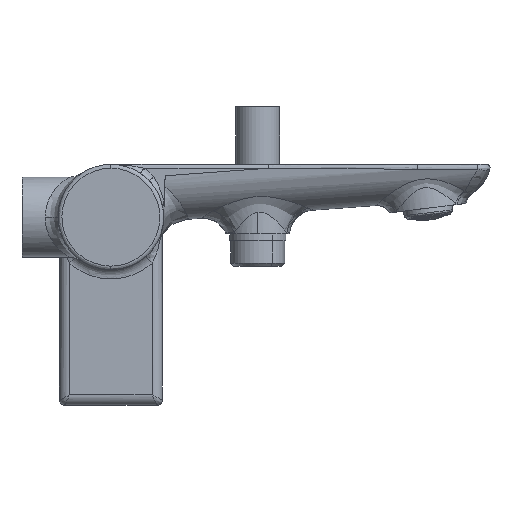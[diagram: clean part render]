
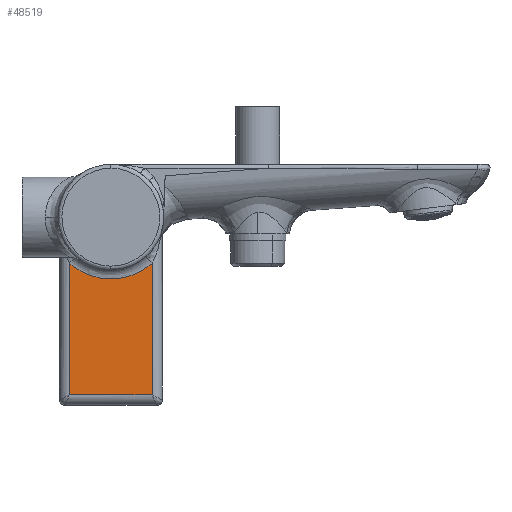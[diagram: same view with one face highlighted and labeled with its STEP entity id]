
A CAD part, left-side view. The second image highlights one B-rep face of the part: STEP entity #48519.
In plain terms, the highlighted planar face has unit normal (-1, 0, 0).
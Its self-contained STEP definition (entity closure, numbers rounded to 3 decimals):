
#1439 = CARTESIAN_POINT ( 'NONE',  ( 120.8, 12.573, -20.443 ) ) ;
#12520 = CARTESIAN_POINT ( 'NONE',  ( 120.8, -9.431, -22.071 ) ) ;
#12676 = LINE ( 'NONE', #86460, #187279 ) ;
#19677 = CARTESIAN_POINT ( 'NONE',  ( 120.8, 12.167, -20.689 ) ) ;
#20874 = CARTESIAN_POINT ( 'NONE',  ( 120.8, 8.539, -22.43 ) ) ;
#29137 = DIRECTION ( 'NONE',  ( 0., 0., -1. ) ) ;
#30747 = CARTESIAN_POINT ( 'NONE',  ( 120.8, -12.746, -20.336 ) ) ;
#33133 = CARTESIAN_POINT ( 'NONE',  ( 120.8, -14.691, -19.001 ) ) ;
#35484 = CARTESIAN_POINT ( 'NONE',  ( 120.8, -3.043, -23.855 ) ) ;
#37876 = CARTESIAN_POINT ( 'NONE',  ( 120.8, 3.885, -23.685 ) ) ;
#39058 = CARTESIAN_POINT ( 'NONE',  ( 120.8, 12.69, -20.371 ) ) ;
#43979 = EDGE_CURVE ( 'NONE', #110801, #60458, #148057, .T. ) ;
#46080 = CARTESIAN_POINT ( 'NONE',  ( 120.8, 16., -69. ) ) ;
#48519 = ADVANCED_FACE ( 'NONE', ( #218594 ), #108416, .T. ) ;
#49624 = AXIS2_PLACEMENT_3D ( 'NONE', #69743, #182260, #169711 ) ;
#50009 = CARTESIAN_POINT ( 'NONE',  ( 120.8, -5.823, -23.288 ) ) ;
#51205 = CARTESIAN_POINT ( 'NONE',  ( 120.8, -8.929, -22.277 ) ) ;
#53556 = CARTESIAN_POINT ( 'NONE',  ( 120.8, 16., -17.889 ) ) ;
#53603 = CARTESIAN_POINT ( 'NONE',  ( 120.8, 8.803, -22.328 ) ) ;
#54283 = VERTEX_POINT ( 'NONE', #149317 ) ;
#55924 = CARTESIAN_POINT ( 'NONE',  ( 120.8, 12.669, -20.383 ) ) ;
#57091 = CARTESIAN_POINT ( 'NONE',  ( 120.8, 12.631, -20.407 ) ) ;
#60458 = VERTEX_POINT ( 'NONE', #53556 ) ;
#68149 = CARTESIAN_POINT ( 'NONE',  ( 120.8, -8.147, -22.587 ) ) ;
#69743 = CARTESIAN_POINT ( 'NONE',  ( 120.8, 20., -73. ) ) ;
#70515 = CARTESIAN_POINT ( 'NONE',  ( 120.8, -9.013, -22.243 ) ) ;
#71715 = CARTESIAN_POINT ( 'NONE',  ( 120.8, -4.91, -23.493 ) ) ;
#72899 = CARTESIAN_POINT ( 'NONE',  ( 120.8, 9.518, -22.044 ) ) ;
#75283 = CARTESIAN_POINT ( 'NONE',  ( 120.8, 5.279, -23.424 ) ) ;
#83875 = B_SPLINE_CURVE_WITH_KNOTS ( 'NONE', 3,
 ( #181870, #106791, #33133, #216979, #237538, #122503, #123704, #124901, #30747, #104397, #198803, #178271, #12520, #161257, #70515, #51205, #233969, #68149, #141872, #50009, #235176, #71715, #222943, #185362, #35484, #148979, #203538, #168410, #129676, #37876, #145419, #238720, #127296, #75283, #221762, #186553, #93422, #20874, #146591, #94615, #53603, #72899, #91082, #167208, #19677, #112707, #1439, #57091, #55924, #39058, #111543, #109155, #164847 ),
 .UNSPECIFIED., .F., .F.,
 ( 4, 1, 1, 1, 1, 2, 2, 1, 1, 1, 1, 2, 2, 1, 1, 1, 2, 2, 2, 1, 1, 1, 2, 2, 1, 1, 1, 1, 2, 2, 1, 1, 1, 1, 1, 2, 2, 4 ),
 ( 0., 0.063, 0.094, 0.109, 0.117, 0.121, 0.125, 0.188, 0.219, 0.234, 0.242, 0.246, 0.25, 0.313, 0.344, 0.359, 0.367, 0.375, 0.5, 0.563, 0.594, 0.609, 0.617, 0.625, 0.688, 0.719, 0.734, 0.742, 0.746, 0.75, 0.813, 0.844, 0.859, 0.867, 0.871, 0.873, 0.875, 1. ),
 .UNSPECIFIED. ) ;
#85333 = ORIENTED_EDGE ( 'NONE', *, *, #228392, .F. ) ;
#86460 = CARTESIAN_POINT ( 'NONE',  ( 120.8, 20., -69. ) ) ;
#91082 = CARTESIAN_POINT ( 'NONE',  ( 120.8, 10.505, -21.6 ) ) ;
#93422 = CARTESIAN_POINT ( 'NONE',  ( 120.8, 8.232, -22.545 ) ) ;
#94615 = CARTESIAN_POINT ( 'NONE',  ( 120.8, 8.757, -22.345 ) ) ;
#96207 = ORIENTED_EDGE ( 'NONE', *, *, #43979, .F. ) ;
#101619 = LINE ( 'NONE', #116169, #118733 ) ;
#104397 = CARTESIAN_POINT ( 'NONE',  ( 120.8, -12.094, -20.743 ) ) ;
#106791 = CARTESIAN_POINT ( 'NONE',  ( 120.8, -15.487, -18.347 ) ) ;
#108416 = PLANE ( 'NONE',  #49624 ) ;
#109155 = CARTESIAN_POINT ( 'NONE',  ( 120.8, 14.973, -18.807 ) ) ;
#110801 = VERTEX_POINT ( 'NONE', #46080 ) ;
#111543 = CARTESIAN_POINT ( 'NONE',  ( 120.8, 13.876, -19.631 ) ) ;
#112636 = EDGE_CURVE ( 'NONE', #225741, #60458, #83875, .T. ) ;
#112707 = CARTESIAN_POINT ( 'NONE',  ( 120.8, 12.438, -20.526 ) ) ;
#116169 = CARTESIAN_POINT ( 'NONE',  ( 120.8, -16., -73. ) ) ;
#118733 = VECTOR ( 'NONE', #29137, 1000. ) ;
#122503 = CARTESIAN_POINT ( 'NONE',  ( 120.8, -12.963, -20.199 ) ) ;
#123704 = CARTESIAN_POINT ( 'NONE',  ( 120.8, -12.854, -20.268 ) ) ;
#123853 = DIRECTION ( 'NONE',  ( 0., 1., 0. ) ) ;
#124901 = CARTESIAN_POINT ( 'NONE',  ( 120.8, -12.781, -20.314 ) ) ;
#127296 = CARTESIAN_POINT ( 'NONE',  ( 120.8, 4.45, -23.584 ) ) ;
#129676 = CARTESIAN_POINT ( 'NONE',  ( 120.8, 3.226, -23.788 ) ) ;
#133718 = CARTESIAN_POINT ( 'NONE',  ( 120.8, -16., -17.889 ) ) ;
#141872 = CARTESIAN_POINT ( 'NONE',  ( 120.8, -7.087, -22.951 ) ) ;
#145419 = CARTESIAN_POINT ( 'NONE',  ( 120.8, 4.167, -23.636 ) ) ;
#146591 = CARTESIAN_POINT ( 'NONE',  ( 120.8, 8.67, -22.379 ) ) ;
#148057 = LINE ( 'NONE', #207363, #222097 ) ;
#148979 = CARTESIAN_POINT ( 'NONE',  ( 120.8, -1.527, -24. ) ) ;
#149317 = CARTESIAN_POINT ( 'NONE',  ( 120.8, -16., -69. ) ) ;
#157542 = EDGE_LOOP ( 'NONE', ( #85333, #225532, #96207, #163841 ) ) ;
#161257 = CARTESIAN_POINT ( 'NONE',  ( 120.8, -9.138, -22.192 ) ) ;
#163841 = ORIENTED_EDGE ( 'NONE', *, *, #219998, .F. ) ;
#164847 = CARTESIAN_POINT ( 'NONE',  ( 120.8, 16., -17.889 ) ) ;
#167208 = CARTESIAN_POINT ( 'NONE',  ( 120.8, 11.619, -21.005 ) ) ;
#168410 = CARTESIAN_POINT ( 'NONE',  ( 120.8, 1.904, -23.946 ) ) ;
#169711 = DIRECTION ( 'NONE',  ( 0., 0., -1. ) ) ;
#178271 = CARTESIAN_POINT ( 'NONE',  ( 120.8, -10.01, -21.818 ) ) ;
#181870 = CARTESIAN_POINT ( 'NONE',  ( 120.8, -16., -17.889 ) ) ;
#182260 = DIRECTION ( 'NONE',  ( -1., 0., 0. ) ) ;
#185362 = CARTESIAN_POINT ( 'NONE',  ( 120.8, -4.636, -23.548 ) ) ;
#186553 = CARTESIAN_POINT ( 'NONE',  ( 120.8, 7.615, -22.765 ) ) ;
#187279 = VECTOR ( 'NONE', #123853, 1000. ) ;
#198803 = CARTESIAN_POINT ( 'NONE',  ( 120.8, -11.15, -21.274 ) ) ;
#203538 = CARTESIAN_POINT ( 'NONE',  ( 120.8, 0.764, -24. ) ) ;
#203799 = DIRECTION ( 'NONE',  ( 0., 0., 1. ) ) ;
#207363 = CARTESIAN_POINT ( 'NONE',  ( 120.8, 16., -73. ) ) ;
#216979 = CARTESIAN_POINT ( 'NONE',  ( 120.8, -13.715, -19.701 ) ) ;
#218594 = FACE_OUTER_BOUND ( 'NONE', #157542, .T. ) ;
#219998 = EDGE_CURVE ( 'NONE', #54283, #110801, #12676, .T. ) ;
#221762 = CARTESIAN_POINT ( 'NONE',  ( 120.8, 6.369, -23.161 ) ) ;
#222097 = VECTOR ( 'NONE', #203799, 1000. ) ;
#222943 = CARTESIAN_POINT ( 'NONE',  ( 120.8, -4.726, -23.53 ) ) ;
#225532 = ORIENTED_EDGE ( 'NONE', *, *, #112636, .T. ) ;
#225741 = VERTEX_POINT ( 'NONE', #133718 ) ;
#228392 = EDGE_CURVE ( 'NONE', #225741, #54283, #101619, .T. ) ;
#233969 = CARTESIAN_POINT ( 'NONE',  ( 120.8, -8.888, -22.294 ) ) ;
#235176 = CARTESIAN_POINT ( 'NONE',  ( 120.8, -5.185, -23.435 ) ) ;
#237538 = CARTESIAN_POINT ( 'NONE',  ( 120.8, -13.215, -20.035 ) ) ;
#238720 = CARTESIAN_POINT ( 'NONE',  ( 120.8, 4.355, -23.602 ) ) ;
